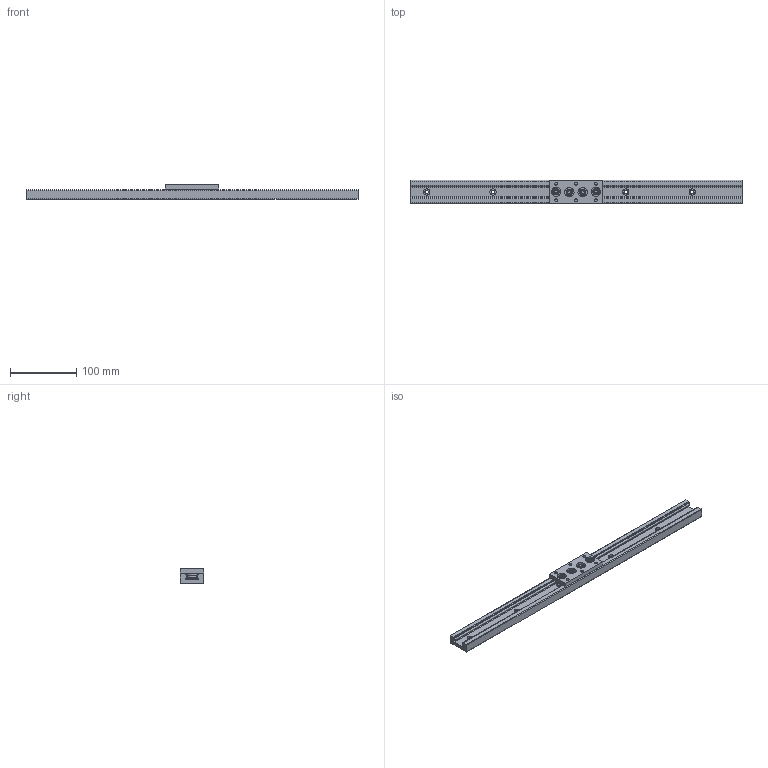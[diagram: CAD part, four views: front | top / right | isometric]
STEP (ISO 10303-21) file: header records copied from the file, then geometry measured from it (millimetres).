
FILE_DESCRIPTION((''),'2;1');
FILE_NAME('C:\Documents and Settings\土屋\My Documents\土屋移動用フォルダ\製品 (図面)\LSダウンロード用図面\LSI3522.stp','2017-01-20T14:33:43',('y'),(''),'Autodesk Inventor 11','Autodesk Inventor 11','');
FILE_SCHEMA(('AUTOMOTIVE_DESIGN { 1 0 10303 214 1 1 1 1 }'));
Length unit declared in the file: millimetre
Products named in the file (3): LSI3522; LSI3522レール; LSI3522キャリッジ
Assembly tree (2 placements, depth 2):
  LSI3522
    LSI3522レール
    LSI3522キャリッジ
Bounding box: 500 x 35 x 22 mm (x, y, z)
Volume: 188157.5 mm3; surface area: 72786.7 mm2
Topology: 2 solids, 2 shells, 204 faces, 450 edges, 283 vertices
Faces by surface type: plane 79, cone 52, cylinder 48, bspline 25
Full cylindrical faces by diameter (mm): 5 x4, 8.6 x8, 10 x4, 14 x4, 16 x8
Entity records: 5801 total; most frequent: CARTESIAN_POINT 1671, DIRECTION 841, ORIENTED_EDGE 778, EDGE_CURVE 389, AXIS2_PLACEMENT_3D 364, EDGE_LOOP 311, VERTEX_POINT 274, FACE_OUTER_BOUND 204
